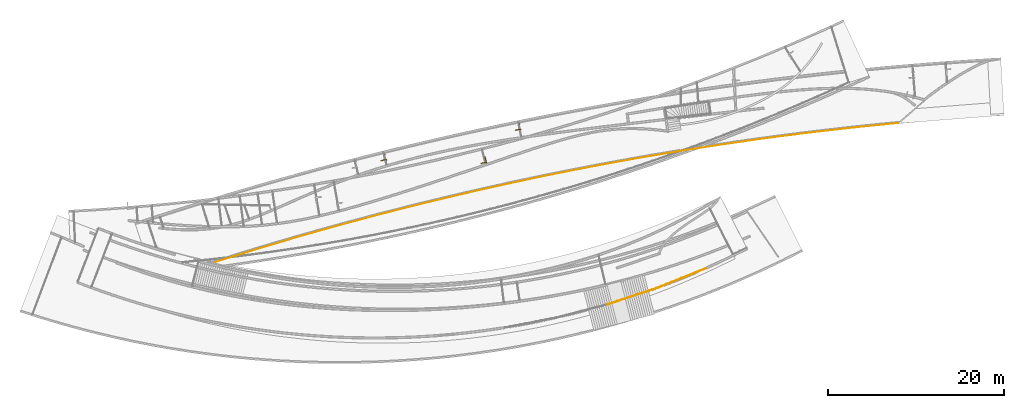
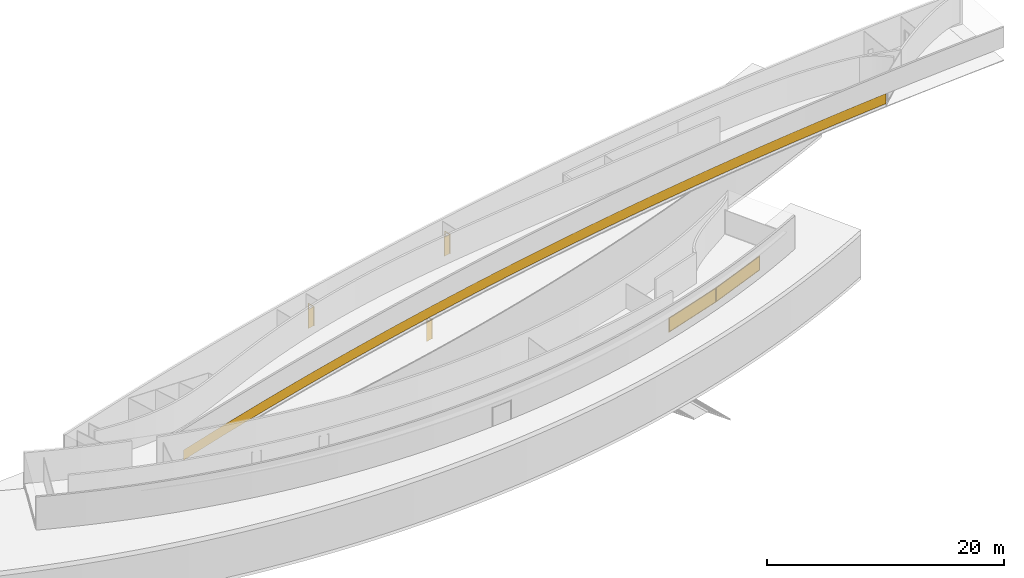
# Not in any storey, part 13 of 16: 3 doors, 3 windows.
"""IFC2X3 model written with IfcOpenShell, lengths in millimetres."""

from ifc_helpers import new_model, entity, si_unit, converted_unit, direction, frame, origin, origin_with_axes, place, context, project, spatial, open_shell, faceted_brep, surface_model, source, transform, mapped, type_object, element, save


model = new_model("IFC2X3")

# Units and contexts
model_context = context("Model", 3, precision=1.0, world=origin_with_axes(), true_north=direction((0.0, 1.0)))
ifc_project = project(units=[converted_unit("PLANEANGLEUNIT", "DEGREE", entity("IfcRatioMeasure", 0.017453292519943), si_unit("PLANEANGLEUNIT", "RADIAN"), dimensions=[0, 0, 0, 0, 0, 0, 0]), si_unit("LENGTHUNIT", "METRE", prefix="MILLI")], contexts=[model_context])

# Site
site_placement = place(None, origin_with_axes())
site = spatial("IfcSite", under=ifc_project, at=site_placement, Name="Site", CompositionType="ELEMENT")

# Windows
window_style = type_object("IfcWindowStyle", Name="Fixed", ConstructionType="NOTDEFINED", OperationType="SINGLE_PANEL", ParameterTakesPrecedence=True, Sizeable=False)
shared_shape_1 = source(origin_with_axes(), model_context, "Body", "Brep", [
    faceted_brep([(2950.0, -25.0, 50.0), (2950.0, -25.0, 516.666687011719), (2950.0, -25.0, 983.333312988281), (2950.0, -25.0, 1450.0), (2360.0, -25.0, 1450.0), (1770.0, -25.0, 1450.0), (1180.0, -25.0, 1450.0), (590.0, -25.0, 1450.0), (-4.55e-13, -25.0, 1450.0), (-590.0, -25.0, 1450.0), (-1180.0, -25.0, 1450.0), (-1770.0, -25.0, 1450.0), (-2360.0, -25.0, 1450.0), (-2950.0, -25.0, 1450.0), (-2950.0, -25.0, 983.333312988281), (-2950.0, -25.0, 516.666687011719), (-2950.0, -25.0, 50.0), (-2360.0, -25.0, 50.0), (-1770.0, -25.0, 50.0), (-1180.0, -25.0, 50.0), (-590.0, -25.0, 50.0), (-4.55e-13, -25.0, 50.0), (590.0, -25.0, 50.0), (1180.0, -25.0, 50.0), (1770.0, -25.0, 50.0), (2360.0, -25.0, 50.0), (-3000.0, -25.0, 0.0), (-2400.0, -25.0, 1.82e-13), (-1800.0, -25.0, 3.64e-13), (-1200.0, -25.0, 5.46e-13), (-600.0, -25.0, 7.28e-13), (0.0, -25.0, 9.09e-13), (600.0, -25.0, 1.091e-12), (1200.0, -25.0, 1.273e-12), (1800.0, -25.0, 1.455e-12), (2400.0, -25.0, 1.637e-12), (3000.0, -25.0, 1.819e-12), (3000.0, -25.0, 500.0), (3000.0, -25.0, 1000.0), (3000.0, -25.0, 1500.0), (2400.0, -25.0, 1500.0), (1800.0, -25.0, 1500.0), (1200.0, -25.0, 1500.0), (600.0, -25.0, 1500.0), (0.0, -25.0, 1500.0), (-600.0, -25.0, 1500.0), (-1200.0, -25.0, 1500.0), (-1800.0, -25.0, 1500.0), (-2400.0, -25.0, 1500.0), (-3000.0, -25.0, 1500.0), (-3000.0, -25.0, 1000.0), (-3000.0, -25.0, 500.0), (3000.0, 25.0, 1.819e-12), (3000.0, -25.0, 1.819e-12), (2400.0, -25.0, 1.637e-12), (1800.0, -25.0, 1.455e-12), (1200.0, -25.0, 1.273e-12), (600.0, -25.0, 1.091e-12), (0.0, -25.0, 9.09e-13), (-600.0, -25.0, 7.28e-13), (-1200.0, -25.0, 5.46e-13), (-1800.0, -25.0, 3.64e-13), (-2400.0, -25.0, 1.82e-13), (-3000.0, -25.0, 0.0), (-3000.0, 25.0, 0.0), (-2400.0, 25.0, 1.82e-13), (-1800.0, 25.0, 3.64e-13), (-1200.0, 25.0, 5.46e-13), (-600.0, 25.0, 7.28e-13), (-4.55e-13, 25.0, 9.09e-13), (600.0, 25.0, 1.091e-12), (1200.0, 25.0, 1.273e-12), (1800.0, 25.0, 1.455e-12), (2400.0, 25.0, 1.637e-12), (3000.0, 25.0, 1500.0), (3000.0, -25.0, 1500.0), (3000.0, -25.0, 1000.0), (3000.0, -25.0, 500.0), (3000.0, -25.0, 1.819e-12), (3000.0, 25.0, 1.819e-12), (3000.0, 25.0, 500.0), (3000.0, 25.0, 1000.0), (-3000.0, 25.0, 1500.0), (-3000.0, -25.0, 1500.0), (-2400.0, -25.0, 1500.0), (-1800.0, -25.0, 1500.0), (-1200.0, -25.0, 1500.0), (-600.0, -25.0, 1500.0), (0.0, -25.0, 1500.0), (600.0, -25.0, 1500.0), (1200.0, -25.0, 1500.0), (1800.0, -25.0, 1500.0), (2400.0, -25.0, 1500.0), (3000.0, -25.0, 1500.0), (3000.0, 25.0, 1500.0), (2400.0, 25.0, 1500.0), (1800.0, 25.0, 1500.0), (1200.0, 25.0, 1500.0), (600.0, 25.0, 1500.0), (-4.55e-13, 25.0, 1500.0), (-600.0, 25.0, 1500.0), (-1200.0, 25.0, 1500.0), (-1800.0, 25.0, 1500.0), (-2400.0, 25.0, 1500.0), (-2950.0, 25.0, 50.0), (-2950.0, -25.0, 50.0), (-2360.0, -25.0, 50.0), (-1770.0, -25.0, 50.0), (-1180.0, -25.0, 50.0), (-590.0, -25.0, 50.0), (-4.55e-13, -25.0, 50.0), (590.0, -25.0, 50.0), (1180.0, -25.0, 50.0), (1770.0, -25.0, 50.0), (2360.0, -25.0, 50.0), (2950.0, -25.0, 50.0), (2950.0, 25.0, 50.0), (2360.0, 25.0, 50.0), (1770.0, 25.0, 50.0), (1180.0, 25.0, 50.0), (590.0, 25.0, 50.0), (-9.09e-13, 25.0, 50.0), (-590.0, 25.0, 50.0), (-1180.0, 25.0, 50.0), (-1770.0, 25.0, 50.0), (-2360.0, 25.0, 50.0), (2950.0, 25.0, 50.0), (2950.0, -25.0, 50.0), (2950.0, -25.0, 516.666687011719), (2950.0, -25.0, 983.333312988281), (2950.0, -25.0, 1450.0), (2950.0, 25.0, 1450.0), (2950.0, 25.0, 983.333312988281), (2950.0, 25.0, 516.666687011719), (-2950.0, 25.0, 1450.0), (-2950.0, -25.0, 1450.0), (-2950.0, -25.0, 983.333312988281), (-2950.0, -25.0, 516.666687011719), (-2950.0, -25.0, 50.0), (-2950.0, 25.0, 50.0), (-2950.0, 25.0, 516.666687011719), (-2950.0, 25.0, 983.333312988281), (-3000.0, 25.0, 0.0), (-3000.0, -25.0, 0.0), (-3000.0, -25.0, 500.0), (-3000.0, -25.0, 1000.0), (-3000.0, -25.0, 1500.0), (-3000.0, 25.0, 1500.0), (-3000.0, 25.0, 1000.0), (-3000.0, 25.0, 500.0), (2950.0, 25.0, 1450.0), (2950.0, -25.0, 1450.0), (2360.0, -25.0, 1450.0), (1770.0, -25.0, 1450.0), (1180.0, -25.0, 1450.0), (590.0, -25.0, 1450.0), (-4.55e-13, -25.0, 1450.0), (-590.0, -25.0, 1450.0), (-1180.0, -25.0, 1450.0), (-1770.0, -25.0, 1450.0), (-2360.0, -25.0, 1450.0), (-2950.0, -25.0, 1450.0), (-2950.0, 25.0, 1450.0), (-2360.0, 25.0, 1450.0), (-1770.0, 25.0, 1450.0), (-1180.0, 25.0, 1450.0), (-590.0, 25.0, 1450.0), (-9.09e-13, 25.0, 1450.0), (590.0, 25.0, 1450.0), (1180.0, 25.0, 1450.0), (1770.0, 25.0, 1450.0), (2360.0, 25.0, 1450.0), (-2400.0, 25.0, 1.82e-13), (-3000.0, 25.0, 0.0), (-3000.0, 25.0, 500.0), (-3000.0, 25.0, 1000.0), (-3000.0, 25.0, 1500.0), (-2400.0, 25.0, 1500.0), (-1800.0, 25.0, 1500.0), (-1200.0, 25.0, 1500.0), (-600.0, 25.0, 1500.0), (-4.55e-13, 25.0, 1500.0), (600.0, 25.0, 1500.0), (1200.0, 25.0, 1500.0), (1800.0, 25.0, 1500.0), (2400.0, 25.0, 1500.0), (3000.0, 25.0, 1500.0), (3000.0, 25.0, 1000.0), (3000.0, 25.0, 500.0), (3000.0, 25.0, 1.819e-12), (2400.0, 25.0, 1.637e-12), (1800.0, 25.0, 1.455e-12), (1200.0, 25.0, 1.273e-12), (600.0, 25.0, 1.091e-12), (-4.55e-13, 25.0, 9.09e-13), (-600.0, 25.0, 7.28e-13), (-1200.0, 25.0, 5.46e-13), (-1800.0, 25.0, 3.64e-13), (-2950.0, 25.0, 516.666687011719), (-2950.0, 25.0, 983.333312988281), (-2950.0, 25.0, 1450.0), (-2360.0, 25.0, 1450.0), (-1770.0, 25.0, 1450.0), (-1180.0, 25.0, 1450.0), (-590.0, 25.0, 1450.0), (-9.09e-13, 25.0, 1450.0), (590.0, 25.0, 1450.0), (1180.0, 25.0, 1450.0), (1770.0, 25.0, 1450.0), (2360.0, 25.0, 1450.0), (2950.0, 25.0, 1450.0), (2950.0, 25.0, 983.333312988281), (2950.0, 25.0, 516.666687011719), (2950.0, 25.0, 50.0), (2360.0, 25.0, 50.0), (1770.0, 25.0, 50.0), (1180.0, 25.0, 50.0), (590.0, 25.0, 50.0), (-9.09e-13, 25.0, 50.0), (-590.0, 25.0, 50.0), (-1180.0, 25.0, 50.0), (-1770.0, 25.0, 50.0), (-2360.0, 25.0, 50.0), (-2950.0, 25.0, 50.0)], [[[0, 1, 2, 3, 4, 5, 6, 7, 8, 9, 10, 11, 12, 13, 14, 15, 16, 17, 18, 19, 20, 21, 22, 23, 24, 25], [26, 27, 28, 29, 30, 31, 32, 33, 34, 35, 36, 37, 38, 39, 40, 41, 42, 43, 44, 45, 46, 47, 48, 49, 50, 51]], [[52, 53, 54, 55, 56, 57, 58, 59, 60, 61, 62, 63, 64, 65, 66, 67, 68, 69, 70, 71, 72, 73]], [[74, 75, 76, 77, 78, 79, 80, 81]], [[82, 83, 84, 85, 86, 87, 88, 89, 90, 91, 92, 93, 94, 95, 96, 97, 98, 99, 100, 101, 102, 103]], [[104, 105, 106, 107, 108, 109, 110, 111, 112, 113, 114, 115, 116, 117, 118, 119, 120, 121, 122, 123, 124, 125]], [[126, 127, 128, 129, 130, 131, 132, 133]], [[134, 135, 136, 137, 138, 139, 140, 141]], [[142, 143, 144, 145, 146, 147, 148, 149]], [[150, 151, 152, 153, 154, 155, 156, 157, 158, 159, 160, 161, 162, 163, 164, 165, 166, 167, 168, 169, 170, 171]], [[172, 173, 174, 175, 176, 177, 178, 179, 180, 181, 182, 183, 184, 185, 186, 187, 188, 189, 190, 191, 192, 193, 194, 195, 196, 197], [198, 199, 200, 201, 202, 203, 204, 205, 206, 207, 208, 209, 210, 211, 212, 213, 214, 215, 216, 217, 218, 219, 220, 221, 222, 223]]], outer=[[False, True], [True], [True], [True], [True], [True], [True], [True], [True], [True, False]]),
])
shared_shape_2 = source(origin_with_axes(), model_context, "Body", "SurfaceModel", [
    surface_model("IfcShellBasedSurfaceModel", [(-2950.0, -1.819e-12, 1450.0), (-2950.0, -1.819e-12, 50.0), (2950.0, -1.819e-12, 50.0), (2950.0, -1.819e-12, 1450.0)], [open_shell([[[0, 1, 2, 3]]])]),
])
shared_shape_3 = source(origin_with_axes(), model_context, "Body", "MappedRepresentation", [
    mapped(shared_shape_1, transform((0.0, 0.0, 0.0))),
    mapped(shared_shape_2, transform((0.0, 0.0, 0.0))),
])
window_1_placement = place(site_placement, frame((15543.6107072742, -10316.5551447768, 10350.0), z_axis=(0.0, 0.0, 1.0), x_axis=(0.927448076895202, 0.373951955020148, 0.0)))
element("IfcWindow", 1, at=window_1_placement, inside=site, type_object=window_style, ObjectType="Fixed", OverallHeight=1500.0, OverallWidth=6000.0, context=model_context, shape_type="MappedRepresentation", body=[
    mapped(shared_shape_3, transform((0.0, 0.0, 0.0))),
])
shared_shape_4 = source(origin_with_axes(), model_context, "Body", "Brep", [
    faceted_brep([(2950.0, -25.0, 50.0), (2950.0, -25.0, 516.666687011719), (2950.0, -25.0, 983.333312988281), (2950.0, -25.0, 1450.0), (2360.0, -25.0, 1450.0), (1770.0, -25.0, 1450.0), (1180.0, -25.0, 1450.0), (590.0, -25.0, 1450.0), (4.55e-13, -25.0, 1450.0), (-590.0, -25.0, 1450.0), (-1180.0, -25.0, 1450.0), (-1770.0, -25.0, 1450.0), (-2360.0, -25.0, 1450.0), (-2950.0, -25.0, 1450.0), (-2950.0, -25.0, 983.333312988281), (-2950.0, -25.0, 516.666687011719), (-2950.0, -25.0, 50.0), (-2360.0, -25.0, 50.0), (-1770.0, -25.0, 50.0), (-1180.0, -25.0, 50.0), (-590.0, -25.0, 50.0), (4.55e-13, -25.0, 50.0), (590.0, -25.0, 50.0), (1180.0, -25.0, 50.0), (1770.0, -25.0, 50.0), (2360.0, -25.0, 50.0), (-3000.0, -25.0, 0.0), (-2400.0, -25.0, 0.0), (-1800.0, -25.0, 0.0), (-1200.0, -25.0, 0.0), (-600.0, -25.0, 0.0), (-4.55e-13, -25.0, 0.0), (600.0, -25.0, 0.0), (1200.0, -25.0, 0.0), (1800.0, -25.0, 0.0), (2400.0, -25.0, 0.0), (3000.0, -25.0, 0.0), (3000.0, -25.0, 500.0), (3000.0, -25.0, 1000.0), (3000.0, -25.0, 1500.0), (2400.0, -25.0, 1500.0), (1800.0, -25.0, 1500.0), (1200.0, -25.0, 1500.0), (600.0, -25.0, 1500.0), (-4.55e-13, -25.0, 1500.0), (-600.0, -25.0, 1500.0), (-1200.0, -25.0, 1500.0), (-1800.0, -25.0, 1500.0), (-2400.0, -25.0, 1500.0), (-3000.0, -25.0, 1500.0), (-3000.0, -25.0, 1000.0), (-3000.0, -25.0, 500.0), (-2950.0, 25.0, 516.666687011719), (-2950.0, 25.0, 983.333312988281), (-2950.0, 25.0, 1450.0), (-2360.0, 25.0, 1450.0), (-1770.0, 25.0, 1450.0), (-1180.0, 25.0, 1450.0), (-590.0, 25.0, 1450.0), (4.55e-13, 25.0, 1450.0), (590.0, 25.0, 1450.0), (1180.0, 25.0, 1450.0), (1770.0, 25.0, 1450.0), (2360.0, 25.0, 1450.0), (2950.0, 25.0, 1450.0), (2950.0, 25.0, 983.333312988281), (2950.0, 25.0, 516.666687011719), (2950.0, 25.0, 50.0), (2360.0, 25.0, 50.0), (1770.0, 25.0, 50.0), (1180.0, 25.0, 50.0), (590.0, 25.0, 50.0), (4.55e-13, 25.0, 50.0), (-590.0, 25.0, 50.0), (-1180.0, 25.0, 50.0), (-1770.0, 25.0, 50.0), (-2360.0, 25.0, 50.0), (-2950.0, 25.0, 50.0), (-2400.0, 25.0, 0.0), (-3000.0, 25.0, 0.0), (-3000.0, 25.0, 500.0), (-3000.0, 25.0, 1000.0), (-3000.0, 25.0, 1500.0), (-2400.0, 25.0, 1500.0), (-1800.0, 25.0, 1500.0), (-1200.0, 25.0, 1500.0), (-600.0, 25.0, 1500.0), (0.0, 25.0, 1500.0), (600.0, 25.0, 1500.0), (1200.0, 25.0, 1500.0), (1800.0, 25.0, 1500.0), (2400.0, 25.0, 1500.0), (3000.0, 25.0, 1500.0), (3000.0, 25.0, 1000.0), (3000.0, 25.0, 500.0), (3000.0, 25.0, 0.0), (2400.0, 25.0, 0.0), (1800.0, 25.0, 0.0), (1200.0, 25.0, 0.0), (600.0, 25.0, 0.0), (0.0, 25.0, 0.0), (-600.0, 25.0, 0.0), (-1200.0, 25.0, 0.0), (-1800.0, 25.0, 0.0), (3000.0, 25.0, 0.0), (3000.0, -25.0, 0.0), (2400.0, -25.0, 0.0), (1800.0, -25.0, 0.0), (1200.0, -25.0, 0.0), (600.0, -25.0, 0.0), (-4.55e-13, -25.0, 0.0), (-600.0, -25.0, 0.0), (-1200.0, -25.0, 0.0), (-1800.0, -25.0, 0.0), (-2400.0, -25.0, 0.0), (-3000.0, -25.0, 0.0), (-3000.0, 25.0, 0.0), (-2400.0, 25.0, 0.0), (-1800.0, 25.0, 0.0), (-1200.0, 25.0, 0.0), (-600.0, 25.0, 0.0), (0.0, 25.0, 0.0), (600.0, 25.0, 0.0), (1200.0, 25.0, 0.0), (1800.0, 25.0, 0.0), (2400.0, 25.0, 0.0), (3000.0, 25.0, 1500.0), (3000.0, -25.0, 1500.0), (3000.0, -25.0, 1000.0), (3000.0, -25.0, 500.0), (3000.0, -25.0, 0.0), (3000.0, 25.0, 0.0), (3000.0, 25.0, 500.0), (3000.0, 25.0, 1000.0), (2950.0, 25.0, 1450.0), (2950.0, -25.0, 1450.0), (2360.0, -25.0, 1450.0), (1770.0, -25.0, 1450.0), (1180.0, -25.0, 1450.0), (590.0, -25.0, 1450.0), (4.55e-13, -25.0, 1450.0), (-590.0, -25.0, 1450.0), (-1180.0, -25.0, 1450.0), (-1770.0, -25.0, 1450.0), (-2360.0, -25.0, 1450.0), (-2950.0, -25.0, 1450.0), (-2950.0, 25.0, 1450.0), (-2360.0, 25.0, 1450.0), (-1770.0, 25.0, 1450.0), (-1180.0, 25.0, 1450.0), (-590.0, 25.0, 1450.0), (4.55e-13, 25.0, 1450.0), (590.0, 25.0, 1450.0), (1180.0, 25.0, 1450.0), (1770.0, 25.0, 1450.0), (2360.0, 25.0, 1450.0), (-3000.0, 25.0, 1500.0), (-3000.0, -25.0, 1500.0), (-2400.0, -25.0, 1500.0), (-1800.0, -25.0, 1500.0), (-1200.0, -25.0, 1500.0), (-600.0, -25.0, 1500.0), (-4.55e-13, -25.0, 1500.0), (600.0, -25.0, 1500.0), (1200.0, -25.0, 1500.0), (1800.0, -25.0, 1500.0), (2400.0, -25.0, 1500.0), (3000.0, -25.0, 1500.0), (3000.0, 25.0, 1500.0), (2400.0, 25.0, 1500.0), (1800.0, 25.0, 1500.0), (1200.0, 25.0, 1500.0), (600.0, 25.0, 1500.0), (0.0, 25.0, 1500.0), (-600.0, 25.0, 1500.0), (-1200.0, 25.0, 1500.0), (-1800.0, 25.0, 1500.0), (-2400.0, 25.0, 1500.0), (-3000.0, 25.0, 0.0), (-3000.0, -25.0, 0.0), (-3000.0, -25.0, 500.0), (-3000.0, -25.0, 1000.0), (-3000.0, -25.0, 1500.0), (-3000.0, 25.0, 1500.0), (-3000.0, 25.0, 1000.0), (-3000.0, 25.0, 500.0), (-2950.0, 25.0, 1450.0), (-2950.0, -25.0, 1450.0), (-2950.0, -25.0, 983.333312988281), (-2950.0, -25.0, 516.666687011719), (-2950.0, -25.0, 50.0), (-2950.0, 25.0, 50.0), (-2950.0, 25.0, 516.666687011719), (-2950.0, 25.0, 983.333312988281), (2950.0, 25.0, 50.0), (2950.0, -25.0, 50.0), (2950.0, -25.0, 516.666687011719), (2950.0, -25.0, 983.333312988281), (2950.0, -25.0, 1450.0), (2950.0, 25.0, 1450.0), (2950.0, 25.0, 983.333312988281), (2950.0, 25.0, 516.666687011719), (-2950.0, 25.0, 50.0), (-2950.0, -25.0, 50.0), (-2360.0, -25.0, 50.0), (-1770.0, -25.0, 50.0), (-1180.0, -25.0, 50.0), (-590.0, -25.0, 50.0), (4.55e-13, -25.0, 50.0), (590.0, -25.0, 50.0), (1180.0, -25.0, 50.0), (1770.0, -25.0, 50.0), (2360.0, -25.0, 50.0), (2950.0, -25.0, 50.0), (2950.0, 25.0, 50.0), (2360.0, 25.0, 50.0), (1770.0, 25.0, 50.0), (1180.0, 25.0, 50.0), (590.0, 25.0, 50.0), (4.55e-13, 25.0, 50.0), (-590.0, 25.0, 50.0), (-1180.0, 25.0, 50.0), (-1770.0, 25.0, 50.0), (-2360.0, 25.0, 50.0)], [[[0, 1, 2, 3, 4, 5, 6, 7, 8, 9, 10, 11, 12, 13, 14, 15, 16, 17, 18, 19, 20, 21, 22, 23, 24, 25], [26, 27, 28, 29, 30, 31, 32, 33, 34, 35, 36, 37, 38, 39, 40, 41, 42, 43, 44, 45, 46, 47, 48, 49, 50, 51]], [[52, 53, 54, 55, 56, 57, 58, 59, 60, 61, 62, 63, 64, 65, 66, 67, 68, 69, 70, 71, 72, 73, 74, 75, 76, 77], [78, 79, 80, 81, 82, 83, 84, 85, 86, 87, 88, 89, 90, 91, 92, 93, 94, 95, 96, 97, 98, 99, 100, 101, 102, 103]], [[104, 105, 106, 107, 108, 109, 110, 111, 112, 113, 114, 115, 116, 117, 118, 119, 120, 121, 122, 123, 124, 125]], [[126, 127, 128, 129, 130, 131, 132, 133]], [[134, 135, 136, 137, 138, 139, 140, 141, 142, 143, 144, 145, 146, 147, 148, 149, 150, 151, 152, 153, 154, 155]], [[156, 157, 158, 159, 160, 161, 162, 163, 164, 165, 166, 167, 168, 169, 170, 171, 172, 173, 174, 175, 176, 177]], [[178, 179, 180, 181, 182, 183, 184, 185]], [[186, 187, 188, 189, 190, 191, 192, 193]], [[194, 195, 196, 197, 198, 199, 200, 201]], [[202, 203, 204, 205, 206, 207, 208, 209, 210, 211, 212, 213, 214, 215, 216, 217, 218, 219, 220, 221, 222, 223]]], outer=[[False, True], [False, True], [True], [True], [True], [True], [True], [True], [True], [True]]),
])
shared_shape_5 = source(origin_with_axes(), model_context, "Body", "SurfaceModel", [
    surface_model("IfcShellBasedSurfaceModel", [(-2950.0, 0.0, 1450.0), (-2950.0, 0.0, 50.0), (2950.0, 0.0, 50.0), (2950.0, 0.0, 1450.0)], [open_shell([[[0, 1, 2, 3]]])]),
])
shared_shape_6 = source(origin_with_axes(), model_context, "Body", "MappedRepresentation", [
    mapped(shared_shape_4, transform((0.0, 0.0, 0.0))),
    mapped(shared_shape_5, transform((0.0, 0.0, 0.0))),
])
window_2_placement = place(site_placement, frame((9951.8292744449, -12365.9747830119, 10350.0), z_axis=(0.0, 0.0, 1.0), x_axis=(0.949443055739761, 0.313939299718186, 0.0)))
element("IfcWindow", 2, at=window_2_placement, inside=site, type_object=window_style, ObjectType="Fixed", OverallHeight=1500.0, OverallWidth=6000.0, context=model_context, shape_type="MappedRepresentation", body=[
    mapped(shared_shape_6, transform((0.0, 0.0, 0.0))),
])

# Doors
door_style_1 = type_object("IfcDoorStyle", Name="Hinged", ConstructionType="NOTDEFINED", OperationType="SINGLE_SWING_LEFT", ParameterTakesPrecedence=True, Sizeable=False)
shared_shape_7 = source(origin_with_axes(), model_context, "Body", "Brep", [
    faceted_brep([(-300.0, -25.0, 975.0), (-300.0, -25.0, 0.0), (-300.0, 0.0, 0.0), (-300.0, 25.0, 0.0), (-300.0, 25.0, 975.0), (-300.0, 25.0, 1950.0), (-300.0, -25.0, 1950.0), (300.0, -25.0, 1950.0), (300.0, 25.0, 1950.0), (300.0, 25.0, 975.0), (300.0, 25.0, 0.0), (300.0, -4.55e-13, 0.0), (300.0, -25.0, 0.0), (300.0, -25.0, 975.0), (-300.0, -25.0, 1950.0), (-300.0, 25.0, 1950.0), (-4.55e-13, 25.0, 1950.0), (300.0, 25.0, 1950.0), (300.0, -25.0, 1950.0), (0.0, -25.0, 1950.0), (-325.0, -25.0, 0.0), (-350.0, -25.0, 0.0), (-350.0, -4.55e-13, 0.0), (-350.0, 25.0, 0.0), (-325.0, 25.0, 0.0), (-300.0, 25.0, 0.0), (-300.0, 0.0, 0.0), (-300.0, -25.0, 0.0), (350.0, -25.0, 0.0), (350.0, -25.0, 1000.0), (350.0, -25.0, 2000.0), (-4.55e-13, -25.0, 2000.0), (-350.0, -25.0, 2000.0), (-350.0, -25.0, 1000.0), (-350.0, -25.0, 0.0), (-325.0, -25.0, 0.0), (-300.0, -25.0, 0.0), (-300.0, -25.0, 975.0), (-300.0, -25.0, 1950.0), (0.0, -25.0, 1950.0), (300.0, -25.0, 1950.0), (300.0, -25.0, 975.0), (300.0, -25.0, 0.0), (325.0, -25.0, 0.0), (325.0, -25.0, 0.0), (300.0, -25.0, 0.0), (300.0, -4.55e-13, 0.0), (300.0, 25.0, 0.0), (325.0, 25.0, 0.0), (350.0, 25.0, 0.0), (350.0, 0.0, 0.0), (350.0, -25.0, 0.0), (350.0, -25.0, 1000.0), (350.0, -25.0, 0.0), (350.0, 0.0, 0.0), (350.0, 25.0, 0.0), (350.0, 25.0, 1000.0), (350.0, 25.0, 2000.0), (350.0, -25.0, 2000.0), (350.0, -25.0, 2000.0), (350.0, 25.0, 2000.0), (0.0, 25.0, 2000.0), (-350.0, 25.0, 2000.0), (-350.0, -25.0, 2000.0), (-4.55e-13, -25.0, 2000.0), (350.0, 25.0, 1000.0), (350.0, 25.0, 0.0), (325.0, 25.0, 0.0), (300.0, 25.0, 0.0), (300.0, 25.0, 975.0), (300.0, 25.0, 1950.0), (-4.55e-13, 25.0, 1950.0), (-300.0, 25.0, 1950.0), (-300.0, 25.0, 975.0), (-300.0, 25.0, 0.0), (-325.0, 25.0, 0.0), (-350.0, 25.0, 0.0), (-350.0, 25.0, 1000.0), (-350.0, 25.0, 2000.0), (0.0, 25.0, 2000.0), (350.0, 25.0, 2000.0), (-350.0, -25.0, 2000.0), (-350.0, 25.0, 2000.0), (-350.0, 25.0, 1000.0), (-350.0, 25.0, 0.0), (-350.0, -4.55e-13, 0.0), (-350.0, -25.0, 0.0), (-350.0, -25.0, 1000.0)], [[[0, 1, 2, 3, 4, 5, 6]], [[7, 8, 9, 10, 11, 12, 13]], [[14, 15, 16, 17, 18, 19]], [[20, 21, 22, 23, 24, 25, 26, 27]], [[28, 29, 30, 31, 32, 33, 34, 35, 36, 37, 38, 39, 40, 41, 42, 43]], [[44, 45, 46, 47, 48, 49, 50, 51]], [[52, 53, 54, 55, 56, 57, 58]], [[59, 60, 61, 62, 63, 64]], [[65, 66, 67, 68, 69, 70, 71, 72, 73, 74, 75, 76, 77, 78, 79, 80]], [[81, 82, 83, 84, 85, 86, 87]]]),
    faceted_brep([(-260.0, 25.0, 0.0), (-300.0, 25.0, 0.0), (-300.0, 325.0, 0.0), (-300.0, 625.0, 0.0), (-260.0, 625.0, 0.0), (-260.0, 325.0, 0.0), (-300.0, 625.0, 0.0), (-300.0, 325.0, 0.0), (-300.0, 25.0, 0.0), (-300.0, 25.0, 975.0), (-300.0, 25.0, 1950.0), (-300.0, 325.0, 1950.0), (-300.0, 625.0, 1950.0), (-300.0, 625.0, 975.0), (-260.0, 25.0, 1950.0), (-300.0, 25.0, 1950.0), (-300.0, 25.0, 975.0), (-300.0, 25.0, 0.0), (-260.0, 25.0, 0.0), (-260.0, 25.0, 975.0), (-260.0, 625.0, 0.0), (-300.0, 625.0, 0.0), (-300.0, 625.0, 975.0), (-300.0, 625.0, 1950.0), (-260.0, 625.0, 1950.0), (-260.0, 625.0, 975.0), (-260.0, 625.0, 975.0), (-260.0, 625.0, 1950.0), (-260.0, 325.0, 1950.0), (-260.0, 25.0, 1950.0), (-260.0, 25.0, 975.0), (-260.0, 25.0, 0.0), (-260.0, 325.0, 0.0), (-260.0, 625.0, 0.0), (-260.0, 625.0, 1950.0), (-300.0, 625.0, 1950.0), (-300.0, 325.0, 1950.0), (-300.0, 25.0, 1950.0), (-260.0, 25.0, 1950.0), (-260.0, 325.0, 1950.0)], [[[0, 1, 2, 3, 4, 5]], [[6, 7, 8, 9, 10, 11, 12, 13]], [[14, 15, 16, 17, 18, 19]], [[20, 21, 22, 23, 24, 25]], [[26, 27, 28, 29, 30, 31, 32, 33]], [[34, 35, 36, 37, 38, 39]]]),
])
door_1_placement = place(site_placement, frame((-6689.12150169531, 3138.30489487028, 4720.0), z_axis=(0.0, 0.0, 1.0), x_axis=(-0.246425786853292, 0.969161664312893, 0.0)))
element("IfcDoor", 3, at=door_1_placement, inside=site, type_object=door_style_1, ObjectType="Hinged", OverallHeight=2000.0, OverallWidth=700.0, context=model_context, shape_type="MappedRepresentation", body=[
    mapped(shared_shape_7, transform((0.0, 0.0, 0.0))),
])
door_style_2 = type_object("IfcDoorStyle", Name="Hinged", ConstructionType="NOTDEFINED", OperationType="SINGLE_SWING_RIGHT", ParameterTakesPrecedence=True, Sizeable=False)
shared_shape_8 = source(origin_with_axes(), model_context, "Body", "Brep", [
    faceted_brep([(-260.0, 25.0, 1950.0), (-300.0, 25.0, 1950.0), (-300.0, 25.0, 975.0), (-300.0, 25.0, -1.819e-12), (-260.0, 25.0, -1.819e-12), (-260.0, 25.0, 975.0), (-260.0, 625.0, -1.819e-12), (-300.0, 625.0, -1.819e-12), (-300.0, 625.0, 975.0), (-300.0, 625.0, 1950.0), (-260.0, 625.0, 1950.0), (-260.0, 625.0, 975.0), (-260.0, 25.0, -1.819e-12), (-300.0, 25.0, -1.819e-12), (-300.0, 325.0, -1.819e-12), (-300.0, 625.0, -1.819e-12), (-260.0, 625.0, -1.819e-12), (-260.0, 325.0, -1.819e-12), (-260.0, 625.0, 1950.0), (-300.0, 625.0, 1950.0), (-300.0, 325.0, 1950.0), (-300.0, 25.0, 1950.0), (-260.0, 25.0, 1950.0), (-260.0, 325.0, 1950.0), (-260.0, 625.0, 975.0), (-260.0, 625.0, 1950.0), (-260.0, 325.0, 1950.0), (-260.0, 25.0, 1950.0), (-260.0, 25.0, 975.0), (-260.0, 25.0, -1.819e-12), (-260.0, 325.0, -1.819e-12), (-260.0, 625.0, -1.819e-12), (-300.0, 625.0, -1.819e-12), (-300.0, 325.0, -1.819e-12), (-300.0, 25.0, -1.819e-12), (-300.0, 25.0, 975.0), (-300.0, 25.0, 1950.0), (-300.0, 325.0, 1950.0), (-300.0, 625.0, 1950.0), (-300.0, 625.0, 975.0)], [[[0, 1, 2, 3, 4, 5]], [[6, 7, 8, 9, 10, 11]], [[12, 13, 14, 15, 16, 17]], [[18, 19, 20, 21, 22, 23]], [[24, 25, 26, 27, 28, 29, 30, 31]], [[32, 33, 34, 35, 36, 37, 38, 39]]]),
    faceted_brep([(325.0, -25.0, -1.819e-12), (300.0, -25.0, -1.819e-12), (300.0, 1.819e-12, -1.819e-12), (300.0, 25.0, -1.819e-12), (325.0, 25.0, -1.819e-12), (350.0, 25.0, -1.819e-12), (350.0, 1.819e-12, -1.819e-12), (350.0, -25.0, -1.819e-12), (350.0, 25.0, 1000.0), (350.0, 25.0, -1.819e-12), (325.0, 25.0, -1.819e-12), (300.0, 25.0, -1.819e-12), (300.0, 25.0, 975.0), (300.0, 25.0, 1950.0), (4.55e-13, 25.0, 1950.0), (-300.0, 25.0, 1950.0), (-300.0, 25.0, 975.0), (-300.0, 25.0, -1.819e-12), (-325.0, 25.0, -1.819e-12), (-350.0, 25.0, -1.819e-12), (-350.0, 25.0, 1000.0), (-350.0, 25.0, 2000.0), (0.0, 25.0, 2000.0), (350.0, 25.0, 2000.0), (350.0, -25.0, -1.819e-12), (350.0, -25.0, 1000.0), (350.0, -25.0, 2000.0), (4.55e-13, -25.0, 2000.0), (-350.0, -25.0, 2000.0), (-350.0, -25.0, 1000.0), (-350.0, -25.0, -1.819e-12), (-325.0, -25.0, -1.819e-12), (-300.0, -25.0, -1.819e-12), (-300.0, -25.0, 975.0), (-300.0, -25.0, 1950.0), (0.0, -25.0, 1950.0), (300.0, -25.0, 1950.0), (300.0, -25.0, 975.0), (300.0, -25.0, -1.819e-12), (325.0, -25.0, -1.819e-12), (300.0, -25.0, 1950.0), (300.0, 25.0, 1950.0), (300.0, 25.0, 975.0), (300.0, 25.0, -1.819e-12), (300.0, 1.819e-12, -1.819e-12), (300.0, -25.0, -1.819e-12), (300.0, -25.0, 975.0), (-300.0, -25.0, 1950.0), (-300.0, 25.0, 1950.0), (4.55e-13, 25.0, 1950.0), (300.0, 25.0, 1950.0), (300.0, -25.0, 1950.0), (0.0, -25.0, 1950.0), (-300.0, -25.0, 975.0), (-300.0, -25.0, -1.819e-12), (-300.0, 0.0, -1.819e-12), (-300.0, 25.0, -1.819e-12), (-300.0, 25.0, 975.0), (-300.0, 25.0, 1950.0), (-300.0, -25.0, 1950.0), (350.0, -25.0, 2000.0), (350.0, 25.0, 2000.0), (0.0, 25.0, 2000.0), (-350.0, 25.0, 2000.0), (-350.0, -25.0, 2000.0), (4.55e-13, -25.0, 2000.0), (-325.0, -25.0, -1.819e-12), (-350.0, -25.0, -1.819e-12), (-350.0, 1.819e-12, -1.819e-12), (-350.0, 25.0, -1.819e-12), (-325.0, 25.0, -1.819e-12), (-300.0, 25.0, -1.819e-12), (-300.0, 0.0, -1.819e-12), (-300.0, -25.0, -1.819e-12), (-350.0, -25.0, 2000.0), (-350.0, 25.0, 2000.0), (-350.0, 25.0, 1000.0), (-350.0, 25.0, -1.819e-12), (-350.0, 1.819e-12, -1.819e-12), (-350.0, -25.0, -1.819e-12), (-350.0, -25.0, 1000.0), (350.0, -25.0, 1000.0), (350.0, -25.0, -1.819e-12), (350.0, 1.819e-12, -1.819e-12), (350.0, 25.0, -1.819e-12), (350.0, 25.0, 1000.0), (350.0, 25.0, 2000.0), (350.0, -25.0, 2000.0)], [[[0, 1, 2, 3, 4, 5, 6, 7]], [[8, 9, 10, 11, 12, 13, 14, 15, 16, 17, 18, 19, 20, 21, 22, 23]], [[24, 25, 26, 27, 28, 29, 30, 31, 32, 33, 34, 35, 36, 37, 38, 39]], [[40, 41, 42, 43, 44, 45, 46]], [[47, 48, 49, 50, 51, 52]], [[53, 54, 55, 56, 57, 58, 59]], [[60, 61, 62, 63, 64, 65]], [[66, 67, 68, 69, 70, 71, 72, 73]], [[74, 75, 76, 77, 78, 79, 80]], [[81, 82, 83, 84, 85, 86, 87]]]),
])
door_2_placement = place(site_placement, frame((-18039.7037152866, 3436.18663867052, 9850.0), z_axis=(0.0, 0.0, 1.0), x_axis=(-0.241106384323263, 0.970498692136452, 0.0)))
element("IfcDoor", 4, at=door_2_placement, inside=site, type_object=door_style_2, ObjectType="Hinged", OverallHeight=2000.0, OverallWidth=700.0, context=model_context, shape_type="MappedRepresentation", body=[
    mapped(shared_shape_8, transform((0.0, 0.0, 0.0))),
])
shared_shape_9 = source(origin_with_axes(), model_context, "Body", "Brep", [
    faceted_brep([(350.0, -25.0, 0.0), (350.0, -25.0, 1000.0), (350.0, -25.0, 2000.0), (0.0, -25.0, 2000.0), (-350.0, -25.0, 2000.0), (-350.0, -25.0, 1000.0), (-350.0, -25.0, 0.0), (-325.0, -25.0, 0.0), (-300.0, -25.0, 0.0), (-300.0, -25.0, 975.0), (-300.0, -25.0, 1950.0), (0.0, -25.0, 1950.0), (300.0, -25.0, 1950.0), (300.0, -25.0, 975.0), (300.0, -25.0, 0.0), (325.0, -25.0, 0.0), (300.0, -25.0, 1950.0), (300.0, 25.0, 1950.0), (300.0, 25.0, 975.0), (300.0, 25.0, 0.0), (300.0, 2.27e-13, 0.0), (300.0, -25.0, 0.0), (300.0, -25.0, 975.0), (-300.0, -25.0, 1950.0), (-300.0, 25.0, 1950.0), (0.0, 25.0, 1950.0), (300.0, 25.0, 1950.0), (300.0, -25.0, 1950.0), (0.0, -25.0, 1950.0), (-325.0, -25.0, 0.0), (-350.0, -25.0, 0.0), (-350.0, 0.0, 0.0), (-350.0, 25.0, 0.0), (-325.0, 25.0, 0.0), (-300.0, 25.0, 0.0), (-300.0, -1.14e-13, 0.0), (-300.0, -25.0, 0.0), (325.0, -25.0, 0.0), (300.0, -25.0, 0.0), (300.0, 2.27e-13, 0.0), (300.0, 25.0, 0.0), (325.0, 25.0, 0.0), (350.0, 25.0, 0.0), (350.0, 1.14e-13, 0.0), (350.0, -25.0, 0.0), (350.0, -25.0, 1000.0), (350.0, -25.0, 0.0), (350.0, 1.14e-13, 0.0), (350.0, 25.0, 0.0), (350.0, 25.0, 1000.0), (350.0, 25.0, 2000.0), (350.0, -25.0, 2000.0), (350.0, 25.0, 1000.0), (350.0, 25.0, 0.0), (325.0, 25.0, 0.0), (300.0, 25.0, 0.0), (300.0, 25.0, 975.0), (300.0, 25.0, 1950.0), (0.0, 25.0, 1950.0), (-300.0, 25.0, 1950.0), (-300.0, 25.0, 975.0), (-300.0, 25.0, 0.0), (-325.0, 25.0, 0.0), (-350.0, 25.0, 0.0), (-350.0, 25.0, 1000.0), (-350.0, 25.0, 2000.0), (0.0, 25.0, 2000.0), (350.0, 25.0, 2000.0), (350.0, -25.0, 2000.0), (350.0, 25.0, 2000.0), (0.0, 25.0, 2000.0), (-350.0, 25.0, 2000.0), (-350.0, -25.0, 2000.0), (0.0, -25.0, 2000.0), (-300.0, -25.0, 975.0), (-300.0, -25.0, 0.0), (-300.0, -1.14e-13, 0.0), (-300.0, 25.0, 0.0), (-300.0, 25.0, 975.0), (-300.0, 25.0, 1950.0), (-300.0, -25.0, 1950.0), (-350.0, -25.0, 2000.0), (-350.0, 25.0, 2000.0), (-350.0, 25.0, 1000.0), (-350.0, 25.0, 0.0), (-350.0, 0.0, 0.0), (-350.0, -25.0, 0.0), (-350.0, -25.0, 1000.0)], [[[0, 1, 2, 3, 4, 5, 6, 7, 8, 9, 10, 11, 12, 13, 14, 15]], [[16, 17, 18, 19, 20, 21, 22]], [[23, 24, 25, 26, 27, 28]], [[29, 30, 31, 32, 33, 34, 35, 36]], [[37, 38, 39, 40, 41, 42, 43, 44]], [[45, 46, 47, 48, 49, 50, 51]], [[52, 53, 54, 55, 56, 57, 58, 59, 60, 61, 62, 63, 64, 65, 66, 67]], [[68, 69, 70, 71, 72, 73]], [[74, 75, 76, 77, 78, 79, 80]], [[81, 82, 83, 84, 85, 86, 87]]]),
    faceted_brep([(-260.0, 625.0, 0.0), (-300.0, 625.0, 0.0), (-300.0, 625.0, 975.0), (-300.0, 625.0, 1950.0), (-260.0, 625.0, 1950.0), (-260.0, 625.0, 975.0), (-260.0, 25.0, 0.0), (-300.0, 25.0, 0.0), (-300.0, 325.0, 0.0), (-300.0, 625.0, 0.0), (-260.0, 625.0, 0.0), (-260.0, 325.0, 0.0), (-260.0, 625.0, 1950.0), (-300.0, 625.0, 1950.0), (-300.0, 325.0, 1950.0), (-300.0, 25.0, 1950.0), (-260.0, 25.0, 1950.0), (-260.0, 325.0, 1950.0), (-260.0, 25.0, 1950.0), (-300.0, 25.0, 1950.0), (-300.0, 25.0, 975.0), (-300.0, 25.0, 0.0), (-260.0, 25.0, 0.0), (-260.0, 25.0, 975.0), (-300.0, 625.0, 0.0), (-300.0, 325.0, 0.0), (-300.0, 25.0, 0.0), (-300.0, 25.0, 975.0), (-300.0, 25.0, 1950.0), (-300.0, 325.0, 1950.0), (-300.0, 625.0, 1950.0), (-300.0, 625.0, 975.0), (-260.0, 625.0, 975.0), (-260.0, 625.0, 1950.0), (-260.0, 325.0, 1950.0), (-260.0, 25.0, 1950.0), (-260.0, 25.0, 975.0), (-260.0, 25.0, 0.0), (-260.0, 325.0, 0.0), (-260.0, 625.0, 0.0)], [[[0, 1, 2, 3, 4, 5]], [[6, 7, 8, 9, 10, 11]], [[12, 13, 14, 15, 16, 17]], [[18, 19, 20, 21, 22, 23]], [[24, 25, 26, 27, 28, 29, 30, 31]], [[32, 33, 34, 35, 36, 37, 38, 39]]]),
])
door_3_placement = place(site_placement, frame((-2771.30075042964, 6882.05874239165, 9850.0), z_axis=(0.0, 0.0, 1.0), x_axis=(-0.199780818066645, 0.97984061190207, 0.0)))
element("IfcDoor", 5, at=door_3_placement, inside=site, type_object=door_style_2, ObjectType="Hinged", OverallHeight=2000.0, OverallWidth=700.0, context=model_context, shape_type="MappedRepresentation", body=[
    mapped(shared_shape_9, transform((0.0, 0.0, 0.0))),
])

# Window
window_3_placement = place(None, origin())
element("IfcWindow", 6, at=window_3_placement, inside=site, context=model_context, shape_type="SurfaceModel", body=[
    surface_model("IfcShellBasedSurfaceModel", [(875.504778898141, 1456.19240252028, 10900.0), (5743.46723348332, 2413.43088239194, 10900.0), (5743.46723348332, 2413.43088239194, 9850.0), (875.504778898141, 1456.19240252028, 9850.0), (10626.2394214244, 3305.76288643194, 10900.0), (10626.2394214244, 3305.76288643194, 9850.0), (35216.1869065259, 6787.29870715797, 10900.0), (40160.1169733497, 7286.76722270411, 10900.0), (40160.1169733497, 7286.76722270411, 9850.0), (35216.1869065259, 6787.29870715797, 9850.0), (25350.2812566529, 5591.27981333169, 10900.0), (30279.1313496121, 6222.12095102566, 10900.0), (30279.1313496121, 6222.12095102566, 9850.0), (25350.2812566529, 5591.27981333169, 9850.0), (20430.9657986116, 4894.85636616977, 10900.0), (20430.9657986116, 4894.85636616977, 9850.0), (15522.511174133, 4132.96690076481, 10900.0), (15522.511174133, 4132.96690076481, 9850.0), (-3976.34546956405, 434.303733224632, 10900.0), (-3976.34546956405, 434.303733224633, 9850.0), (-18422.3379905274, -3016.18408384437, 10900.0), (-13626.5448925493, -1802.22658357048, 10900.0), (-13626.5448925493, -1802.22658357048, 9850.0), (-18422.3379905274, -3016.18408384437, 9850.0), (-27949.0110219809, -5633.52102146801, 10900.0), (-23196.9089828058, -4293.42416482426, 10900.0), (-23196.9089828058, -4293.42416482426, 9850.0), (-27949.0110219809, -5633.521021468, 9850.0), (-37380.8941071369, -8500.41873155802, 10900.0), (-32677.4117003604, -7036.01612771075, 10900.0), (-32677.4117003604, -7036.01612771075, 9850.0), (-37380.8941071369, -8500.41873155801, 9850.0), (-8810.78989638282, -651.944295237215, 10900.0), (-8810.78989638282, -651.944295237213, 9850.0)], [open_shell([[[0, 1, 2, 3]], [[1, 4, 5, 2]], [[6, 7, 8, 9]], [[10, 11, 12, 13]], [[11, 6, 9, 12]], [[14, 10, 13, 15]], [[16, 14, 15, 17]], [[4, 16, 17, 5]], [[18, 0, 3, 19]], [[20, 21, 22, 23]], [[24, 25, 26, 27]], [[25, 20, 23, 26]], [[28, 29, 30, 31]], [[21, 32, 33, 22]], [[32, 18, 19, 33]], [[29, 24, 27, 30]]])]),
])

save(model, "model.ifc")
